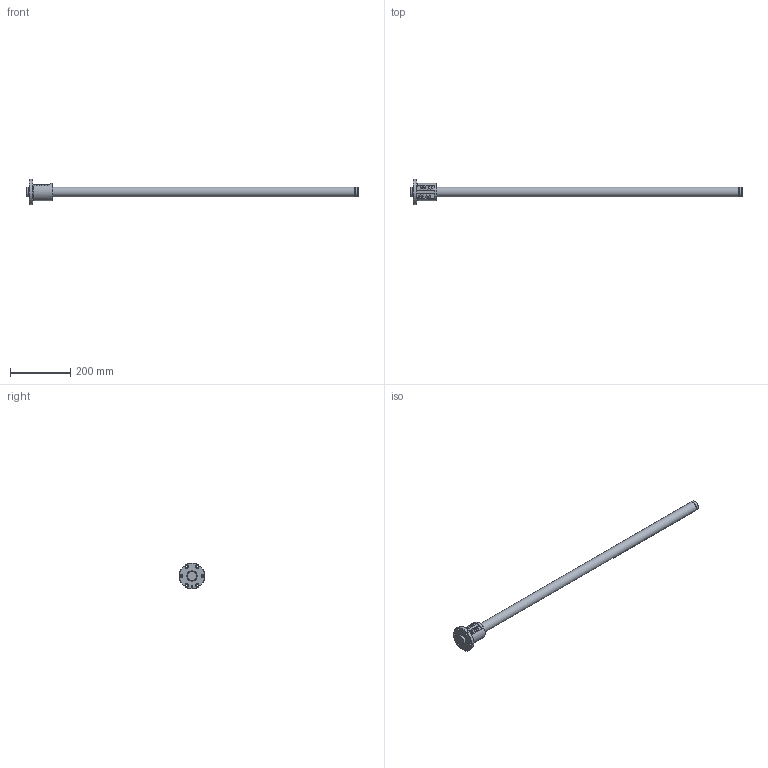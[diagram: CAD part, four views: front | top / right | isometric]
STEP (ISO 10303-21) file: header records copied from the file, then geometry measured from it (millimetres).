
FILE_DESCRIPTION( ( 'STEP AP203' ), ' ' );
FILE_NAME( 'p:/temp/worker_49/1856_1980/app_74_12018011812033753943962818fa3fd_000000_00_00_000000/format_0/BIF3205-6RRG0+1098LC0_10000.stp', '2018-01-18T11:03:38', ( '' ), ( '' ), ' ', 'PARTsolutions', ' ' );
FILE_SCHEMA( ( 'CONFIG_CONTROL_DESIGN' ) );
Length unit declared in the file: millimetre
Products named in the file (3): BIF3205-6RRG0+1098LC0_10000; _BIF 3205-6RR1000500 Shaft; _BIF 3205-6RR Nut
Assembly tree (2 placements, depth 2):
  BIF3205-6RRG0+1098LC0_10000
    _BIF 3205-6RR1000500 Shaft
    _BIF 3205-6RR Nut
Bounding box: 1098 x 85 x 85 mm (x, y, z)
Volume: 1044582.4 mm3; surface area: 148934 mm2
Topology: 2 solids, 2 shells, 98 faces, 242 edges, 153 vertices
Faces by surface type: cylinder 47, plane 35, cone 8, torus 8
Full cylindrical faces by diameter (mm): 4.25 x2, 4.917 x1, 6.6 x6, 11 x6, 31.5 x2, 32 x4, 34.8 x2, 58 x1, 85 x1
Entity records: 3482 total; most frequent: CARTESIAN_POINT 1091, DIRECTION 504, ORIENTED_EDGE 406, AXIS2_PLACEMENT_3D 216, EDGE_CURVE 203, EDGE_LOOP 168, VERTEX_POINT 147, FACE_OUTER_BOUND 123
